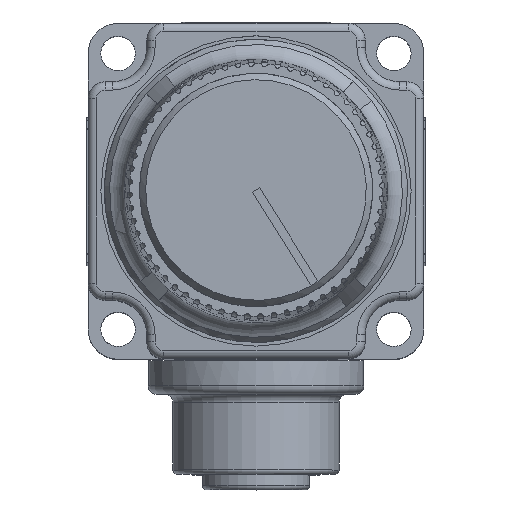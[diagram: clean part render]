
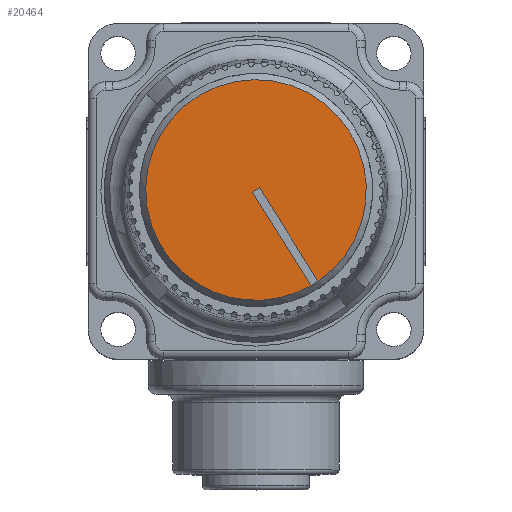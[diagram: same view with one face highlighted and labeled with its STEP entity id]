
A CAD part, top view. The second image highlights one B-rep face of the part: STEP entity #20464.
In plain terms, the highlighted planar face has unit normal (0, 0, 1).
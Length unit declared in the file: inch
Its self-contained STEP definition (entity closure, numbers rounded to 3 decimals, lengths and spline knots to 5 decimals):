
#2220=LINE('',#39898,#3631);
#2225=LINE('',#39917,#3636);
#2228=LINE('',#39922,#3639);
#3631=VECTOR('',#27157,0.3937);
#3636=VECTOR('',#27168,0.3937);
#3639=VECTOR('',#27173,0.3937);
#4979=FACE_OUTER_BOUND('',#6201,.T.);
#6201=EDGE_LOOP('',(#16633,#16634,#16635,#16636,#16637));
#7088=CIRCLE('',#22365,0.4);
#7089=CIRCLE('',#22366,0.4);
#8844=VERTEX_POINT('',#39896);
#8845=VERTEX_POINT('',#39897);
#8848=VERTEX_POINT('',#39910);
#8850=VERTEX_POINT('',#39916);
#8852=VERTEX_POINT('',#39926);
#11485=EDGE_CURVE('',#8844,#8845,#2220,.T.);
#11492=EDGE_CURVE('',#8850,#8848,#2225,.T.);
#11495=EDGE_CURVE('',#8845,#8850,#2228,.T.);
#11497=EDGE_CURVE('',#8848,#8852,#7088,.T.);
#11498=EDGE_CURVE('',#8852,#8844,#7089,.T.);
#16633=ORIENTED_EDGE('',*,*,#11492,.T.);
#16634=ORIENTED_EDGE('',*,*,#11497,.T.);
#16635=ORIENTED_EDGE('',*,*,#11498,.T.);
#16636=ORIENTED_EDGE('',*,*,#11485,.T.);
#16637=ORIENTED_EDGE('',*,*,#11495,.T.);
#18357=PLANE('',#22369);
#20464=ADVANCED_FACE('',(#4979),#18357,.T.);
#22365=AXIS2_PLACEMENT_3D('',#39927,#27179,#27180);
#22366=AXIS2_PLACEMENT_3D('',#39928,#27181,#27182);
#22369=AXIS2_PLACEMENT_3D('',#39934,#27188,#27189);
#27157=DIRECTION('',(-0.532,0.847,0.));
#27168=DIRECTION('',(0.532,-0.847,0.));
#27173=DIRECTION('',(0.847,0.532,0.));
#27179=DIRECTION('center_axis',(0.,0.,1.));
#27180=DIRECTION('ref_axis',(0.847,0.532,0.));
#27181=DIRECTION('center_axis',(0.,0.,1.));
#27182=DIRECTION('ref_axis',(0.847,0.532,0.));
#27188=DIRECTION('center_axis',(0.,0.,1.));
#27189=DIRECTION('ref_axis',(1.,0.,0.));
#39896=CARTESIAN_POINT('',(0.08493,-0.37494,1.8705));
#39897=CARTESIAN_POINT('',(-0.12755,-0.03638,1.8705));
#39898=CARTESIAN_POINT('',(0.08493,-0.37494,1.8705));
#39910=CARTESIAN_POINT('',(0.11034,-0.35899,1.8705));
#39916=CARTESIAN_POINT('',(-0.10215,-0.02043,1.8705));
#39917=CARTESIAN_POINT('',(-0.10215,-0.02043,1.8705));
#39922=CARTESIAN_POINT('',(-0.12755,-0.03638,1.8705));
#39926=CARTESIAN_POINT('',(-0.26701,-0.39833,1.8705));
#39927=CARTESIAN_POINT('Origin',(-0.11485,-0.0284,
1.8705));
#39928=CARTESIAN_POINT('Origin',(-0.11485,-0.0284,
1.8705));
#39934=CARTESIAN_POINT('Origin',(-0.46362,-0.24424,
1.8705));
